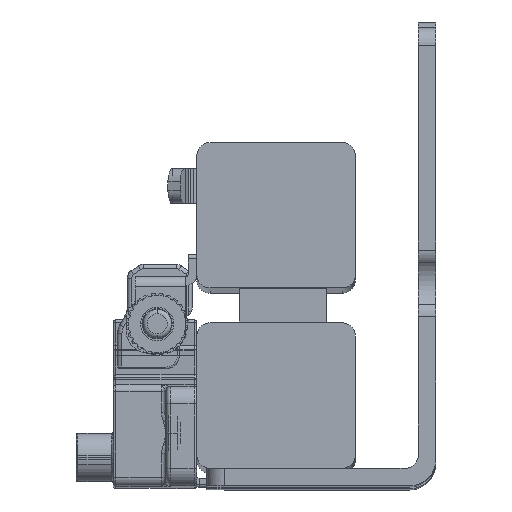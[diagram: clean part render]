
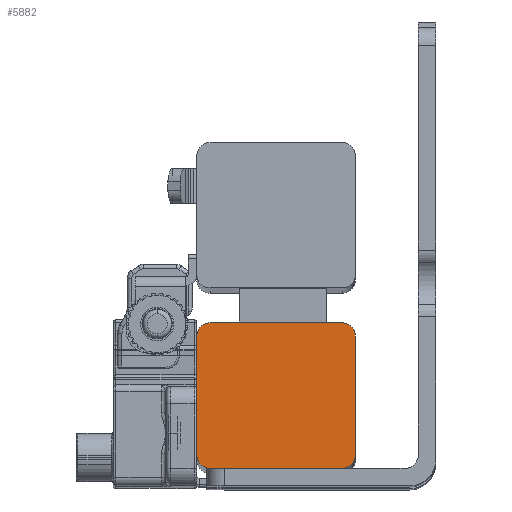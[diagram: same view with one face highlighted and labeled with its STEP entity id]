
A CAD part, top view. The second image highlights one B-rep face of the part: STEP entity #5882.
In plain terms, the highlighted planar face has unit normal (0, 0, 1).
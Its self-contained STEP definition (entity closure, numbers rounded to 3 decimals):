
#977 = CARTESIAN_POINT ( 'NONE',  ( -5012.64, 311.815, 194.451 ) ) ;
#1051 = CARTESIAN_POINT ( 'NONE',  ( -5027.64, 326.815, 194.451 ) ) ;
#1354 = DIRECTION ( 'NONE',  ( 0., 0., 1. ) ) ;
#2249 = LINE ( 'NONE', #60288, #65597 ) ;
#2600 = VECTOR ( 'NONE', #50409, 1000. ) ;
#2608 = CIRCLE ( 'NONE', #11482, 1.5 ) ;
#5882 = ADVANCED_FACE ( 'NONE', ( #55080 ), #45399, .F. ) ;
#6582 = DIRECTION ( 'NONE',  ( 0., 0., 1. ) ) ;
#7784 = CARTESIAN_POINT ( 'NONE',  ( -5027.65, 313.305, 194.451 ) ) ;
#7984 = EDGE_CURVE ( 'NONE', #18173, #38606, #22755, .T. ) ;
#9280 = VERTEX_POINT ( 'NONE', #58379 ) ;
#11482 = AXIS2_PLACEMENT_3D ( 'NONE', #40659, #20301, #14077 ) ;
#12344 = VERTEX_POINT ( 'NONE', #63457 ) ;
#12792 = EDGE_CURVE ( 'NONE', #29036, #9280, #2249, .T. ) ;
#14077 = DIRECTION ( 'NONE',  ( 1., 0., 0. ) ) ;
#14358 = CIRCLE ( 'NONE', #52992, 1.5 ) ;
#18173 = VERTEX_POINT ( 'NONE', #36365 ) ;
#19460 = AXIS2_PLACEMENT_3D ( 'NONE', #7784, #66495, #65819 ) ;
#19833 = CARTESIAN_POINT ( 'NONE',  ( -5027.64, 328.315, 194.451 ) ) ;
#20156 = ORIENTED_EDGE ( 'NONE', *, *, #36840, .T. ) ;
#20301 = DIRECTION ( 'NONE',  ( 0., 0., 1. ) ) ;
#20331 = DIRECTION ( 'NONE',  ( 1., 0., 0. ) ) ;
#20680 = DIRECTION ( 'NONE',  ( 0., 0., 1. ) ) ;
#21442 = VERTEX_POINT ( 'NONE', #39459 ) ;
#21697 = VERTEX_POINT ( 'NONE', #30088 ) ;
#22755 = LINE ( 'NONE', #44114, #31733 ) ;
#22765 = EDGE_LOOP ( 'NONE', ( #48707, #61417, #63658, #54035, #67897, #63903, #27710, #20156 ) ) ;
#23132 = CARTESIAN_POINT ( 'NONE',  ( -5012.64, 313.315, 194.451 ) ) ;
#23607 = EDGE_CURVE ( 'NONE', #21697, #21442, #53847, .T. ) ;
#24861 = LINE ( 'NONE', #29331, #2600 ) ;
#25247 = EDGE_CURVE ( 'NONE', #21697, #12344, #2608, .T. ) ;
#26542 = VECTOR ( 'NONE', #42129, 1000. ) ;
#27710 = ORIENTED_EDGE ( 'NONE', *, *, #7984, .F. ) ;
#29036 = VERTEX_POINT ( 'NONE', #977 ) ;
#29331 = CARTESIAN_POINT ( 'NONE',  ( -5011.14, 328.315, 194.451 ) ) ;
#30088 = CARTESIAN_POINT ( 'NONE',  ( -5011.14, 326.815, 194.451 ) ) ;
#31733 = VECTOR ( 'NONE', #59692, 1000. ) ;
#33108 = AXIS2_PLACEMENT_3D ( 'NONE', #68009, #20680, #20331 ) ;
#33187 = DIRECTION ( 'NONE',  ( -1., 0., 0. ) ) ;
#35024 = CARTESIAN_POINT ( 'NONE',  ( -5029.14, 326.815, 194.451 ) ) ;
#36365 = CARTESIAN_POINT ( 'NONE',  ( -5029.14, 313.315, 194.451 ) ) ;
#36573 = EDGE_CURVE ( 'NONE', #29036, #21442, #14358, .T. ) ;
#36840 = EDGE_CURVE ( 'NONE', #18173, #9280, #62888, .T. ) ;
#38009 = DIRECTION ( 'NONE',  ( 1., 0., 0. ) ) ;
#38606 = VERTEX_POINT ( 'NONE', #35024 ) ;
#39459 = CARTESIAN_POINT ( 'NONE',  ( -5011.14, 313.315, 194.451 ) ) ;
#39890 = EDGE_CURVE ( 'NONE', #60974, #38606, #66379, .T. ) ;
#40659 = CARTESIAN_POINT ( 'NONE',  ( -5012.64, 326.815, 194.451 ) ) ;
#42129 = DIRECTION ( 'NONE',  ( 0., -1., 0. ) ) ;
#43029 = EDGE_CURVE ( 'NONE', #60974, #12344, #24861, .T. ) ;
#44114 = CARTESIAN_POINT ( 'NONE',  ( -5029.14, 311.815, 194.451 ) ) ;
#44724 = DIRECTION ( 'NONE',  ( -1., 0., 0. ) ) ;
#45399 = PLANE ( 'NONE',  #19460 ) ;
#48707 = ORIENTED_EDGE ( 'NONE', *, *, #12792, .F. ) ;
#50409 = DIRECTION ( 'NONE',  ( 1., 0., 0. ) ) ;
#52992 = AXIS2_PLACEMENT_3D ( 'NONE', #23132, #1354, #38009 ) ;
#53190 = AXIS2_PLACEMENT_3D ( 'NONE', #1051, #6582, #33187 ) ;
#53847 = LINE ( 'NONE', #58698, #26542 ) ;
#54035 = ORIENTED_EDGE ( 'NONE', *, *, #25247, .T. ) ;
#55080 = FACE_OUTER_BOUND ( 'NONE', #22765, .T. ) ;
#58379 = CARTESIAN_POINT ( 'NONE',  ( -5027.64, 311.815, 194.451 ) ) ;
#58698 = CARTESIAN_POINT ( 'NONE',  ( -5011.14, 311.815, 194.451 ) ) ;
#59692 = DIRECTION ( 'NONE',  ( 0., 1., 0. ) ) ;
#60288 = CARTESIAN_POINT ( 'NONE',  ( -5029.14, 311.815, 194.451 ) ) ;
#60974 = VERTEX_POINT ( 'NONE', #19833 ) ;
#61417 = ORIENTED_EDGE ( 'NONE', *, *, #36573, .T. ) ;
#62888 = CIRCLE ( 'NONE', #33108, 1.5 ) ;
#63457 = CARTESIAN_POINT ( 'NONE',  ( -5012.64, 328.315, 194.451 ) ) ;
#63658 = ORIENTED_EDGE ( 'NONE', *, *, #23607, .F. ) ;
#63903 = ORIENTED_EDGE ( 'NONE', *, *, #39890, .T. ) ;
#65597 = VECTOR ( 'NONE', #44724, 1000. ) ;
#65819 = DIRECTION ( 'NONE',  ( 0., -1., 0. ) ) ;
#66379 = CIRCLE ( 'NONE', #53190, 1.5 ) ;
#66495 = DIRECTION ( 'NONE',  ( 0., 0., -1. ) ) ;
#67897 = ORIENTED_EDGE ( 'NONE', *, *, #43029, .F. ) ;
#68009 = CARTESIAN_POINT ( 'NONE',  ( -5027.64, 313.315, 194.451 ) ) ;
